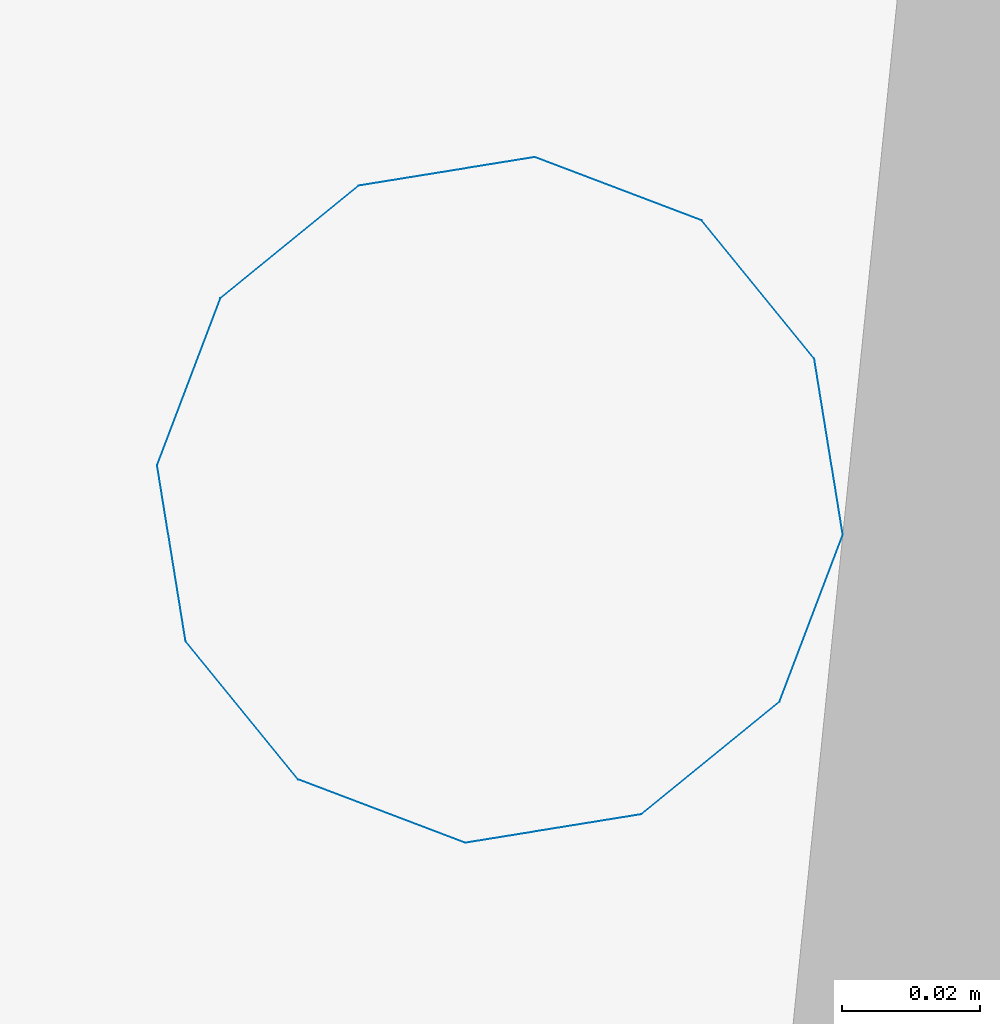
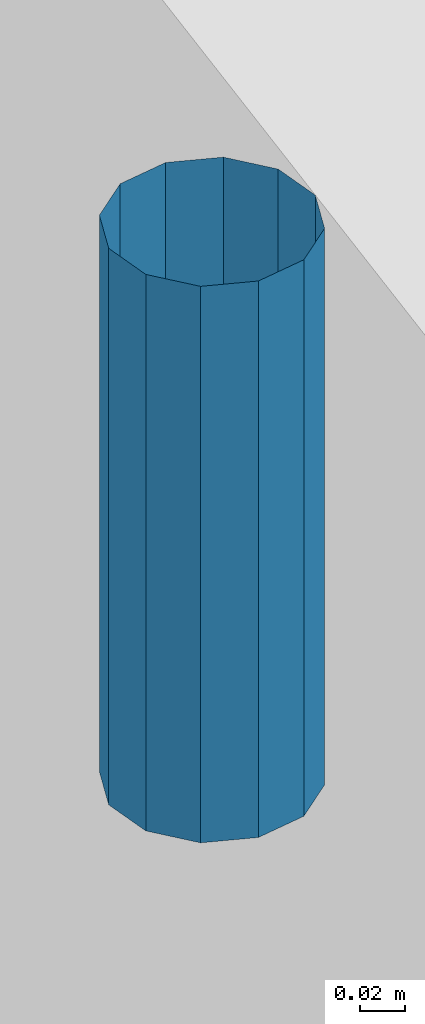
# One storey, part 30 of 41: 1 discrete accessory.
"""IFC2X3 building model written with IfcOpenShell, lengths in millimetres."""

from ifc_helpers import new_model, entity, si_unit, converted_unit, derived_unit, money_unit, direction, frame, origin_with_axes, place, context, subcontext, project, spatial, open_shell, surface_model, source, transform, mapped, type_object, element, save


model = new_model("IFC2X3")

# Units and contexts
model_context = context("Model", 3, precision=0.01, world=origin_with_axes(), true_north=direction((0.0, 1.0)))
body_context = subcontext(model_context, "Body", "Model", "MODEL_VIEW")
ifc_project = project(units=[si_unit("LENGTHUNIT", "METRE", prefix="MILLI"), si_unit("AREAUNIT", "SQUARE_METRE"), si_unit("VOLUMEUNIT", "CUBIC_METRE"), converted_unit("PLANEANGLEUNIT", "DEGREE", entity("IfcPlaneAngleMeasure", 0.0174532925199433), si_unit("PLANEANGLEUNIT", "RADIAN"), dimensions=[0, 0, 0, 0, 0, 0, 0]), money_unit("USD"), converted_unit("TIMEUNIT", "Year", entity("IfcTimeMeasure", 31557600.0), si_unit("TIMEUNIT", "SECOND"), dimensions=[0, 0, 1, 0, 0, 0, 0]), si_unit("MASSUNIT", "GRAM", prefix="KILO"), si_unit("THERMODYNAMICTEMPERATUREUNIT", "DEGREE_CELSIUS"), si_unit("LUMINOUSINTENSITYUNIT", "LUMEN"), si_unit("ENERGYUNIT", "JOULE", prefix="MEGA"), derived_unit("THERMALCONDUCTANCEUNIT", [(si_unit("POWERUNIT", "WATT"), 1), (si_unit("LENGTHUNIT", "METRE"), -1), (si_unit("THERMODYNAMICTEMPERATUREUNIT", "KELVIN"), -1)]), derived_unit("SPECIFICHEATCAPACITYUNIT", [(si_unit("ENERGYUNIT", "JOULE"), 1), (si_unit("MASSUNIT", "GRAM", prefix="KILO"), -1), (si_unit("THERMODYNAMICTEMPERATUREUNIT", "KELVIN"), -1)]), derived_unit("MASSDENSITYUNIT", [(si_unit("MASSUNIT", "GRAM", prefix="KILO"), 1), (si_unit("VOLUMEUNIT", "CUBIC_METRE"), -1)])], contexts=[model_context])

# Site, building, storey
site_placement = place(None, origin_with_axes())
site = spatial("IfcSite", under=ifc_project, at=site_placement, Name="Site", CompositionType="ELEMENT")
building_placement = place(site_placement, origin_with_axes())
building = spatial("IfcBuilding", under=site, at=building_placement, Name="Bâtiment", CompositionType="ELEMENT")
storey_placement = place(building_placement, origin_with_axes())
storey = spatial("IfcBuildingStorey", under=building, at=storey_placement, Name="sousol", CompositionType="ELEMENT", Elevation=0.0)

# Discrete accessory
discrete_accessory_type = type_object("IfcDiscreteAccessoryType", Name="Tuyau descente 27")
shared_shape = source(origin_with_axes(), body_context, "Body", "SurfaceModel", [
    surface_model("IfcShellBasedSurfaceModel", [(-50.0, 0.0, 300.0), (-50.0, 0.0, 0.0), (-43.30127018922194, -25.0, 0.0), (-43.30127018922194, -25.0, 300.0), (-43.30127018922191, 25.00000000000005, 300.0), (-43.30127018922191, 25.00000000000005, 0.0), (-25.00000000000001, -43.30127018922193, 0.0), (-25.00000000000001, -43.30127018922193, 300.0), (-24.99999999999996, 43.30127018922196, 300.0), (-24.99999999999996, 43.30127018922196, 0.0), (0.0, -50.0, 0.0), (0.0, -50.0, 300.0), (0.0, 50.0, 300.0), (0.0, 50.0, 0.0), (24.99999999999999, -43.30127018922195, 0.0), (24.99999999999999, -43.30127018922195, 300.0), (25.00000000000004, 43.30127018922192, 300.0), (25.00000000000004, 43.30127018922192, 0.0), (43.30127018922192, -25.00000000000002, 0.0), (43.30127018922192, -25.00000000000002, 300.0), (43.30127018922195, 24.99999999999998, 300.0), (43.30127018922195, 24.99999999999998, 0.0), (50.0, 0.0, 0.0), (50.0, 0.0, 300.0)], [open_shell([[[0, 1, 2, 3]], [[4, 5, 1, 0]], [[3, 2, 6, 7]], [[8, 9, 5, 4]], [[7, 6, 10, 11]], [[12, 13, 9, 8]], [[11, 10, 14, 15]], [[16, 17, 13, 12]], [[15, 14, 18, 19]], [[20, 21, 17, 16]], [[19, 18, 22, 23]], [[23, 22, 21, 20]]])]),
])
discrete_accessory_placement = place(storey_placement, frame((2230185.036657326, -606619.6430628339, 2700.0), z_axis=(0.0, 0.0, 1.0), x_axis=(-0.9948759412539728, 0.1011032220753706, 0.0)))
element("IfcDiscreteAccessory", 1, at=discrete_accessory_placement, inside=storey, type_object=discrete_accessory_type, Name="Obj.-318", context=body_context, shape_type="MappedRepresentation", body=[
    mapped(shared_shape, transform((0.0, 0.0, 0.0))),
])

save(model, "model.ifc")
